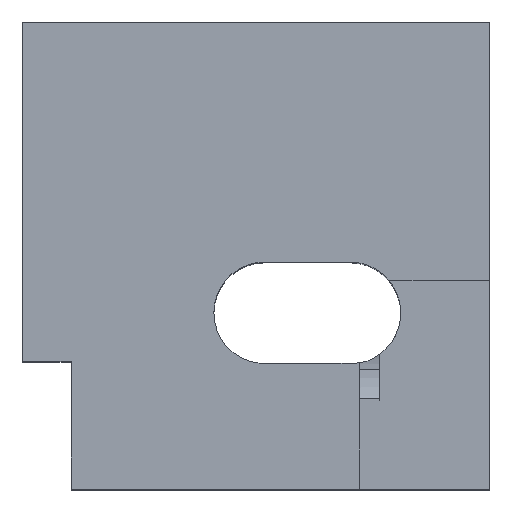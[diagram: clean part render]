
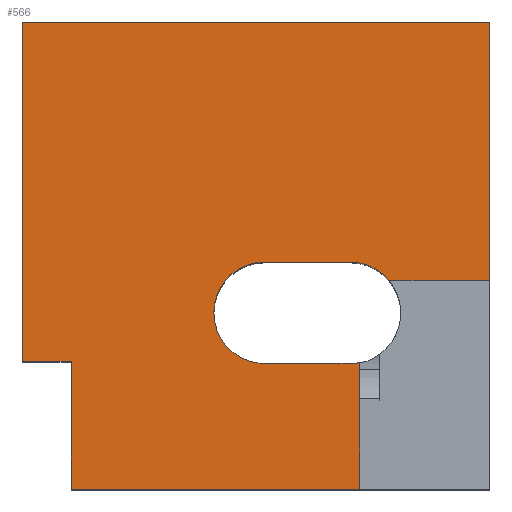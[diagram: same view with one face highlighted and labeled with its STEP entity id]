
A CAD part, top view. The second image highlights one B-rep face of the part: STEP entity #566.
In plain terms, the highlighted planar face has unit normal (0, 0, 1).
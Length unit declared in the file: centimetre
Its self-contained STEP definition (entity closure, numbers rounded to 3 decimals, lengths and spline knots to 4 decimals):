
#51 = EDGE_CURVE ( 'NONE', #730, #1000, #443, .T. ) ;
#58 = CARTESIAN_POINT ( 'NONE',  ( 518.3585, 377.6135, 1000. ) ) ;
#82 = ORIENTED_EDGE ( 'NONE', *, *, #51, .T. ) ;
#89 = DIRECTION ( 'NONE',  ( 1., 0., 0. ) ) ;
#103 = ORIENTED_EDGE ( 'NONE', *, *, #1828, .T. ) ;
#131 = VERTEX_POINT ( 'NONE', #1115 ) ;
#137 = CARTESIAN_POINT ( 'NONE',  ( 701.3053, 377.6135, 1000. ) ) ;
#143 = LINE ( 'NONE', #1725, #1559 ) ;
#146 = EDGE_LOOP ( 'NONE', ( #103, #178, #1415, #1011, #675, #82, #1044, #688, #1773, #1375, #170, #558, #1245, #1289 ) ) ;
#165 = CARTESIAN_POINT ( 'NONE',  ( 701.3053, 269.0389, 1000. ) ) ;
#169 = CARTESIAN_POINT ( 'NONE',  ( 104.3536, 273.4466, 1000. ) ) ;
#170 = ORIENTED_EDGE ( 'NONE', *, *, #1225, .T. ) ;
#178 = ORIENTED_EDGE ( 'NONE', *, *, #1312, .T. ) ;
#184 = CARTESIAN_POINT ( 'NONE',  ( 784.3014, 447.6141, 1000. ) ) ;
#194 = DIRECTION ( 'NONE',  ( 1., 0., 0. ) ) ;
#207 = DIRECTION ( 'NONE',  ( 0., -1., 0. ) ) ;
#219 = CARTESIAN_POINT ( 'NONE',  ( 0., 0., 1000. ) ) ;
#243 = CIRCLE ( 'NONE', #1213, 108.5746 ) ;
#265 = CARTESIAN_POINT ( 'NONE',  ( 721.5909, 447.6141, 1000. ) ) ;
#297 = CARTESIAN_POINT ( 'NONE',  ( 721.5909, 270.9507, 1000. ) ) ;
#299 = VERTEX_POINT ( 'NONE', #1542 ) ;
#311 = CARTESIAN_POINT ( 'NONE',  ( 701.3053, 486.1881, 1000. ) ) ;
#334 = EDGE_CURVE ( 'NONE', #1663, #1604, #1411, .T. ) ;
#359 = PLANE ( 'NONE',  #489 ) ;
#368 = EDGE_CURVE ( 'NONE', #299, #1366, #1447, .T. ) ;
#382 = DIRECTION ( 'NONE',  ( 0., 0., -1. ) ) ;
#414 = VERTEX_POINT ( 'NONE', #1280 ) ;
#443 = CIRCLE ( 'NONE', #1702, 108.5746 ) ;
#448 = LINE ( 'NONE', #1314, #639 ) ;
#450 = EDGE_CURVE ( 'NONE', #1311, #1062, #1744, .T. ) ;
#465 = LINE ( 'NONE', #1307, #1351 ) ;
#472 = CARTESIAN_POINT ( 'NONE',  ( 1000., 1000., 1000. ) ) ;
#489 = AXIS2_PLACEMENT_3D ( 'NONE', #219, #1362, #89 ) ;
#525 = DIRECTION ( 'NONE',  ( 0., 1., 0. ) ) ;
#537 = VECTOR ( 'NONE', #836, 100. ) ;
#558 = ORIENTED_EDGE ( 'NONE', *, *, #705, .T. ) ;
#561 = CIRCLE ( 'NONE', #954, 108.5746 ) ;
#566 = ADVANCED_FACE ( 'NONE', ( #664 ), #359, .T. ) ;
#606 = DIRECTION ( 'NONE',  ( 1., 0., 0. ) ) ;
#607 = DIRECTION ( 'NONE',  ( 0., 0., -1. ) ) ;
#636 = VECTOR ( 'NONE', #1015, 100. ) ;
#637 = DIRECTION ( 'NONE',  ( 0., -1., 0. ) ) ;
#638 = DIRECTION ( 'NONE',  ( 0., 0., -1. ) ) ;
#639 = VECTOR ( 'NONE', #885, 100. ) ;
#664 = FACE_OUTER_BOUND ( 'NONE', #146, .T. ) ;
#675 = ORIENTED_EDGE ( 'NONE', *, *, #806, .T. ) ;
#688 = ORIENTED_EDGE ( 'NONE', *, *, #368, .T. ) ;
#705 = EDGE_CURVE ( 'NONE', #887, #1578, #1549, .T. ) ;
#708 = DIRECTION ( 'NONE',  ( 1., 0., 0. ) ) ;
#719 = CARTESIAN_POINT ( 'NONE',  ( 1000., 1000., 1000. ) ) ;
#730 = VERTEX_POINT ( 'NONE', #1113 ) ;
#751 = CARTESIAN_POINT ( 'NONE',  ( 701.3053, 377.6135, 1000. ) ) ;
#757 = CARTESIAN_POINT ( 'NONE',  ( 721.5909, 0., 1000. ) ) ;
#762 = CARTESIAN_POINT ( 'NONE',  ( 701.3053, 486.1881, 1000. ) ) ;
#767 = DIRECTION ( 'NONE',  ( 0., 0., -1. ) ) ;
#806 = EDGE_CURVE ( 'NONE', #827, #730, #448, .T. ) ;
#827 = VERTEX_POINT ( 'NONE', #165 ) ;
#836 = DIRECTION ( 'NONE',  ( -1., 0., 0. ) ) ;
#842 = DIRECTION ( 'NONE',  ( -1., 0., 0. ) ) ;
#843 = AXIS2_PLACEMENT_3D ( 'NONE', #58, #767, #1472 ) ;
#884 = CARTESIAN_POINT ( 'NONE',  ( 409.7839, 377.6135, 1000. ) ) ;
#885 = DIRECTION ( 'NONE',  ( -1., 0., 0. ) ) ;
#887 = VERTEX_POINT ( 'NONE', #472 ) ;
#929 = VECTOR ( 'NONE', #637, 100. ) ;
#954 = AXIS2_PLACEMENT_3D ( 'NONE', #751, #607, #1422 ) ;
#972 = LINE ( 'NONE', #719, #1374 ) ;
#1000 = VERTEX_POINT ( 'NONE', #884 ) ;
#1011 = ORIENTED_EDGE ( 'NONE', *, *, #1147, .T. ) ;
#1015 = DIRECTION ( 'NONE',  ( 0., -1., 0. ) ) ;
#1032 = CIRCLE ( 'NONE', #843, 108.5746 ) ;
#1036 = VECTOR ( 'NONE', #207, 100. ) ;
#1037 = EDGE_CURVE ( 'NONE', #414, #1692, #143, .T. ) ;
#1044 = ORIENTED_EDGE ( 'NONE', *, *, #1048, .T. ) ;
#1048 = EDGE_CURVE ( 'NONE', #1000, #299, #1032, .T. ) ;
#1062 = VERTEX_POINT ( 'NONE', #757 ) ;
#1066 = CARTESIAN_POINT ( 'NONE',  ( 518.3585, 377.6135, 1000. ) ) ;
#1081 = CARTESIAN_POINT ( 'NONE',  ( 104.3536, 0., 1000. ) ) ;
#1113 = CARTESIAN_POINT ( 'NONE',  ( 518.3585, 269.0389, 1000. ) ) ;
#1115 = CARTESIAN_POINT ( 'NONE',  ( 104.3536, 0., 1000. ) ) ;
#1121 = CARTESIAN_POINT ( 'NONE',  ( 0., 1000., 1000. ) ) ;
#1147 = EDGE_CURVE ( 'NONE', #1311, #827, #243, .T. ) ;
#1204 = LINE ( 'NONE', #1081, #929 ) ;
#1212 = LINE ( 'NONE', #1343, #1036 ) ;
#1213 = AXIS2_PLACEMENT_3D ( 'NONE', #137, #382, #708 ) ;
#1225 = EDGE_CURVE ( 'NONE', #1663, #887, #972, .T. ) ;
#1245 = ORIENTED_EDGE ( 'NONE', *, *, #1384, .T. ) ;
#1280 = CARTESIAN_POINT ( 'NONE',  ( 0., 273.4466, 1000. ) ) ;
#1289 = ORIENTED_EDGE ( 'NONE', *, *, #1037, .T. ) ;
#1307 = CARTESIAN_POINT ( 'NONE',  ( 0., 0., 1000. ) ) ;
#1311 = VERTEX_POINT ( 'NONE', #297 ) ;
#1312 = EDGE_CURVE ( 'NONE', #131, #1062, #465, .T. ) ;
#1314 = CARTESIAN_POINT ( 'NONE',  ( 518.3585, 269.0389, 1000. ) ) ;
#1343 = CARTESIAN_POINT ( 'NONE',  ( 0., 1000., 1000. ) ) ;
#1351 = VECTOR ( 'NONE', #606, 100. ) ;
#1362 = DIRECTION ( 'NONE',  ( 0., 0., 1. ) ) ;
#1366 = VERTEX_POINT ( 'NONE', #762 ) ;
#1374 = VECTOR ( 'NONE', #525, 100. ) ;
#1375 = ORIENTED_EDGE ( 'NONE', *, *, #334, .F. ) ;
#1384 = EDGE_CURVE ( 'NONE', #1578, #414, #1212, .T. ) ;
#1411 = LINE ( 'NONE', #265, #537 ) ;
#1415 = ORIENTED_EDGE ( 'NONE', *, *, #450, .F. ) ;
#1422 = DIRECTION ( 'NONE',  ( 1., 0., 0. ) ) ;
#1433 = CARTESIAN_POINT ( 'NONE',  ( 1000., 447.6141, 1000. ) ) ;
#1447 = LINE ( 'NONE', #311, #1740 ) ;
#1472 = DIRECTION ( 'NONE',  ( 1., 0., 0. ) ) ;
#1487 = CARTESIAN_POINT ( 'NONE',  ( 0., 1000., 1000. ) ) ;
#1542 = CARTESIAN_POINT ( 'NONE',  ( 518.3585, 486.1881, 1000. ) ) ;
#1549 = LINE ( 'NONE', #1121, #1627 ) ;
#1559 = VECTOR ( 'NONE', #1766, 100. ) ;
#1578 = VERTEX_POINT ( 'NONE', #1487 ) ;
#1604 = VERTEX_POINT ( 'NONE', #184 ) ;
#1627 = VECTOR ( 'NONE', #842, 100. ) ;
#1649 = EDGE_CURVE ( 'NONE', #1366, #1604, #561, .T. ) ;
#1663 = VERTEX_POINT ( 'NONE', #1433 ) ;
#1692 = VERTEX_POINT ( 'NONE', #169 ) ;
#1701 = DIRECTION ( 'NONE',  ( 1., 0., 0. ) ) ;
#1702 = AXIS2_PLACEMENT_3D ( 'NONE', #1066, #638, #194 ) ;
#1725 = CARTESIAN_POINT ( 'NONE',  ( 0., 273.4466, 1000. ) ) ;
#1740 = VECTOR ( 'NONE', #1701, 100. ) ;
#1744 = LINE ( 'NONE', #1855, #636 ) ;
#1766 = DIRECTION ( 'NONE',  ( 1., 0., 0. ) ) ;
#1773 = ORIENTED_EDGE ( 'NONE', *, *, #1649, .T. ) ;
#1828 = EDGE_CURVE ( 'NONE', #1692, #131, #1204, .T. ) ;
#1855 = CARTESIAN_POINT ( 'NONE',  ( 721.5909, 447.6141, 1000. ) ) ;
